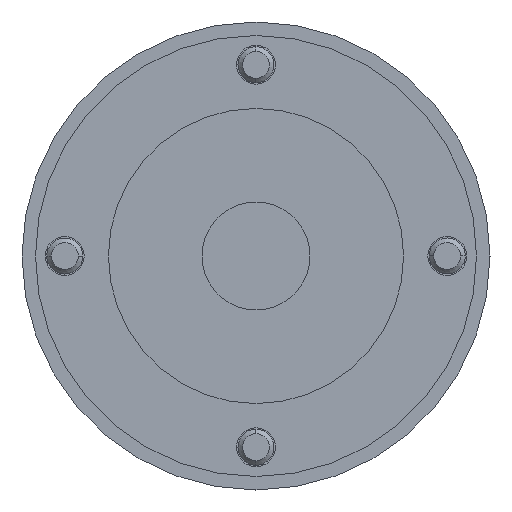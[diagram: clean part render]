
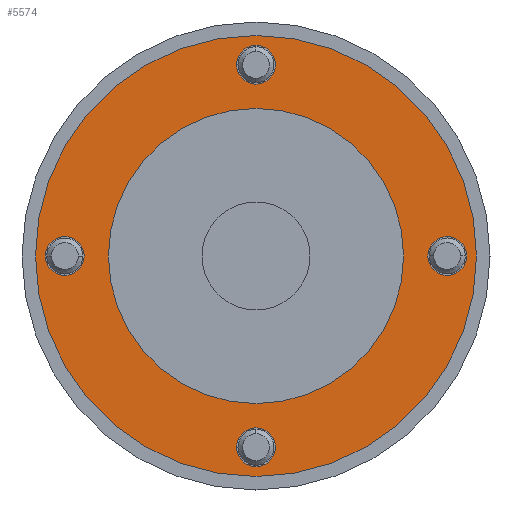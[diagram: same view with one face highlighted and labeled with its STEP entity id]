
A CAD part, left-side view. The second image highlights one B-rep face of the part: STEP entity #5574.
In plain terms, the highlighted planar face has unit normal (-1, 0, 0).
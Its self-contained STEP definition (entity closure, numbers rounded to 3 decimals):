
#1004 = CIRCLE ( 'NONE', #1089, 2.15 ) ;
#1079 = DIRECTION ( 'NONE',  ( 0., 0., -1. ) ) ;
#1080 = DIRECTION ( 'NONE',  ( 1., 0., 0. ) ) ;
#1081 = CARTESIAN_POINT ( 'NONE',  ( 2., 21.25, 0. ) ) ;
#1089 = AXIS2_PLACEMENT_3D ( 'NONE', #1081, #1080, #1079 ) ;
#1363 = CARTESIAN_POINT ( 'NONE',  ( 2., 0., -23.4 ) ) ;
#2031 = CARTESIAN_POINT ( 'NONE',  ( 2., 0., -16.4 ) ) ;
#2098 = DIRECTION ( 'NONE',  ( 0., 0., 1. ) ) ;
#2099 = DIRECTION ( 'NONE',  ( -1., 0., 0. ) ) ;
#2100 = CARTESIAN_POINT ( 'NONE',  ( 2., 0., 0. ) ) ;
#2101 = AXIS2_PLACEMENT_3D ( 'NONE', #2100, #2099, #2098 ) ;
#2115 = CIRCLE ( 'NONE', #2101, 16.4 ) ;
#2145 = CARTESIAN_POINT ( 'NONE',  ( 2., 0., 16.4 ) ) ;
#2383 = DIRECTION ( 'NONE',  ( 0., 0., -1. ) ) ;
#2384 = DIRECTION ( 'NONE',  ( 1., 0., 0. ) ) ;
#2385 = CARTESIAN_POINT ( 'NONE',  ( 2., -21.25, 0. ) ) ;
#2386 = AXIS2_PLACEMENT_3D ( 'NONE', #2385, #2384, #2383 ) ;
#2387 = CIRCLE ( 'NONE', #2386, 2.15 ) ;
#2389 = CARTESIAN_POINT ( 'NONE',  ( 2., -21.25, 2.15 ) ) ;
#2405 = CARTESIAN_POINT ( 'NONE',  ( 2., 0., 19.1 ) ) ;
#2444 = CARTESIAN_POINT ( 'NONE',  ( 2., 21.25, 2.15 ) ) ;
#2445 = CARTESIAN_POINT ( 'NONE',  ( 2., -21.25, -2.15 ) ) ;
#2463 = CARTESIAN_POINT ( 'NONE',  ( 2., 0., -19.1 ) ) ;
#2556 = DIRECTION ( 'NONE',  ( 0., 0., -1. ) ) ;
#2557 = DIRECTION ( 'NONE',  ( 1., 0., 0. ) ) ;
#2558 = CARTESIAN_POINT ( 'NONE',  ( 2., 0., -21.25 ) ) ;
#2587 = CIRCLE ( 'NONE', #2608, 2.15 ) ;
#2608 = AXIS2_PLACEMENT_3D ( 'NONE', #2558, #2557, #2556 ) ;
#2683 = DIRECTION ( 'NONE',  ( 0., 0., -1. ) ) ;
#2684 = DIRECTION ( 'NONE',  ( 1., 0., 0. ) ) ;
#2685 = AXIS2_PLACEMENT_3D ( 'NONE', #2694, #2684, #2683 ) ;
#2693 = CIRCLE ( 'NONE', #2685, 2.15 ) ;
#2694 = CARTESIAN_POINT ( 'NONE',  ( 2., 0., 21.25 ) ) ;
#2700 = CARTESIAN_POINT ( 'NONE',  ( 2., 0., 23.4 ) ) ;
#2701 = CARTESIAN_POINT ( 'NONE',  ( 2., 21.25, -2.15 ) ) ;
#2975 = AXIS2_PLACEMENT_3D ( 'NONE', #2977, #2976, #3109 ) ;
#2976 = DIRECTION ( 'NONE',  ( -1., 0., 0. ) ) ;
#2977 = CARTESIAN_POINT ( 'NONE',  ( 2., 0., 0. ) ) ;
#2987 = CIRCLE ( 'NONE', #2975, 24.5 ) ;
#3109 = DIRECTION ( 'NONE',  ( 0., 0., 1. ) ) ;
#3379 = CARTESIAN_POINT ( 'NONE',  ( 2., 0., 0. ) ) ;
#3380 = AXIS2_PLACEMENT_3D ( 'NONE', #3379, #3436, #3435 ) ;
#3381 = CIRCLE ( 'NONE', #3380, 24.5 ) ;
#3435 = DIRECTION ( 'NONE',  ( 0., 0., 1. ) ) ;
#3436 = DIRECTION ( 'NONE',  ( -1., 0., 0. ) ) ;
#3502 = CARTESIAN_POINT ( 'NONE',  ( 2., 0., -24.5 ) ) ;
#3534 = CARTESIAN_POINT ( 'NONE',  ( 2., 0., 24.5 ) ) ;
#3584 = DIRECTION ( 'NONE',  ( 0., 0., -1. ) ) ;
#3585 = DIRECTION ( 'NONE',  ( 1., 0., 0. ) ) ;
#3586 = CARTESIAN_POINT ( 'NONE',  ( 2., 0., -21.25 ) ) ;
#3589 = CARTESIAN_POINT ( 'NONE',  ( 2., 21.25, 0. ) ) ;
#3590 = AXIS2_PLACEMENT_3D ( 'NONE', #3586, #3585, #3584 ) ;
#3591 = CIRCLE ( 'NONE', #3590, 2.15 ) ;
#3596 = AXIS2_PLACEMENT_3D ( 'NONE', #3589, #3632, #3631 ) ;
#3606 = CIRCLE ( 'NONE', #3596, 2.15 ) ;
#3627 = DIRECTION ( 'NONE',  ( 1., 0., 0. ) ) ;
#3628 = CARTESIAN_POINT ( 'NONE',  ( 2., 24.5, 0. ) ) ;
#3631 = DIRECTION ( 'NONE',  ( 0., 0., -1. ) ) ;
#3632 = DIRECTION ( 'NONE',  ( 1., 0., 0. ) ) ;
#3633 = DIRECTION ( 'NONE',  ( 0., 0., -1. ) ) ;
#3651 = FACE_OUTER_BOUND ( 'NONE', #5751, .T. ) ;
#3652 = FACE_BOUND ( 'NONE', #5745, .T. ) ;
#3653 = FACE_BOUND ( 'NONE', #5721, .T. ) ;
#3654 = FACE_BOUND ( 'NONE', #5575, .T. ) ;
#3655 = FACE_BOUND ( 'NONE', #5565, .T. ) ;
#3657 = PLANE ( 'NONE',  #3659 ) ;
#3658 = FACE_BOUND ( 'NONE', #5785, .T. ) ;
#3659 = AXIS2_PLACEMENT_3D ( 'NONE', #3628, #3627, #3633 ) ;
#3737 = DIRECTION ( 'NONE',  ( 0., 0., -1. ) ) ;
#3738 = DIRECTION ( 'NONE',  ( 1., 0., 0. ) ) ;
#3743 = CARTESIAN_POINT ( 'NONE',  ( 2., 0., 21.25 ) ) ;
#3744 = AXIS2_PLACEMENT_3D ( 'NONE', #3743, #3738, #3737 ) ;
#3757 = CIRCLE ( 'NONE', #3744, 2.15 ) ;
#3798 = DIRECTION ( 'NONE',  ( 0., 0., -1. ) ) ;
#3799 = DIRECTION ( 'NONE',  ( 1., 0., 0. ) ) ;
#3800 = AXIS2_PLACEMENT_3D ( 'NONE', #3816, #3799, #3798 ) ;
#3805 = CIRCLE ( 'NONE', #3800, 2.15 ) ;
#3816 = CARTESIAN_POINT ( 'NONE',  ( 2., -21.25, 0. ) ) ;
#3932 = DIRECTION ( 'NONE',  ( 0., 0., 1. ) ) ;
#3933 = DIRECTION ( 'NONE',  ( -1., 0., 0. ) ) ;
#3934 = CARTESIAN_POINT ( 'NONE',  ( 2., 0., 0. ) ) ;
#3935 = AXIS2_PLACEMENT_3D ( 'NONE', #3934, #3933, #3932 ) ;
#4113 = CIRCLE ( 'NONE', #3935, 16.4 ) ;
#4627 = EDGE_CURVE ( 'NONE', #5067, #5152, #1004, .T. ) ;
#4652 = VERTEX_POINT ( 'NONE', #1363 ) ;
#4907 = VERTEX_POINT ( 'NONE', #2145 ) ;
#4908 = VERTEX_POINT ( 'NONE', #2031 ) ;
#4935 = EDGE_CURVE ( 'NONE', #4908, #4907, #2115, .T. ) ;
#5062 = VERTEX_POINT ( 'NONE', #2463 ) ;
#5067 = VERTEX_POINT ( 'NONE', #2444 ) ;
#5070 = VERTEX_POINT ( 'NONE', #2405 ) ;
#5074 = VERTEX_POINT ( 'NONE', #2445 ) ;
#5076 = EDGE_CURVE ( 'NONE', #5080, #5074, #2387, .T. ) ;
#5080 = VERTEX_POINT ( 'NONE', #2389 ) ;
#5143 = VERTEX_POINT ( 'NONE', #2700 ) ;
#5151 = EDGE_CURVE ( 'NONE', #5143, #5070, #2693, .T. ) ;
#5152 = VERTEX_POINT ( 'NONE', #2701 ) ;
#5185 = EDGE_CURVE ( 'NONE', #5062, #4652, #2587, .T. ) ;
#5447 = EDGE_CURVE ( 'NONE', #5521, #5520, #3381, .T. ) ;
#5488 = EDGE_CURVE ( 'NONE', #5520, #5521, #2987, .T. ) ;
#5520 = VERTEX_POINT ( 'NONE', #3502 ) ;
#5521 = VERTEX_POINT ( 'NONE', #3534 ) ;
#5563 = EDGE_CURVE ( 'NONE', #4652, #5062, #3591, .T. ) ;
#5564 = EDGE_CURVE ( 'NONE', #5152, #5067, #3606, .T. ) ;
#5565 = EDGE_LOOP ( 'NONE', ( #5712, #5715 ) ) ;
#5574 = ADVANCED_FACE ( 'NONE', ( #3658, #3655, #3654, #3653, #3652, #3651 ), #3657, .F. ) ;
#5575 = EDGE_LOOP ( 'NONE', ( #5577, #5718 ) ) ;
#5577 = ORIENTED_EDGE ( 'NONE', *, *, #5717, .T. ) ;
#5672 = EDGE_CURVE ( 'NONE', #4907, #4908, #4113, .T. ) ;
#5712 = ORIENTED_EDGE ( 'NONE', *, *, #5563, .T. ) ;
#5714 = ORIENTED_EDGE ( 'NONE', *, *, #5748, .T. ) ;
#5715 = ORIENTED_EDGE ( 'NONE', *, *, #5185, .T. ) ;
#5717 = EDGE_CURVE ( 'NONE', #5074, #5080, #3805, .T. ) ;
#5718 = ORIENTED_EDGE ( 'NONE', *, *, #5076, .T. ) ;
#5721 = EDGE_LOOP ( 'NONE', ( #5714, #5752 ) ) ;
#5724 = ORIENTED_EDGE ( 'NONE', *, *, #5564, .T. ) ;
#5726 = ORIENTED_EDGE ( 'NONE', *, *, #4627, .T. ) ;
#5730 = ORIENTED_EDGE ( 'NONE', *, *, #5672, .F. ) ;
#5745 = EDGE_LOOP ( 'NONE', ( #5730, #5750 ) ) ;
#5748 = EDGE_CURVE ( 'NONE', #5070, #5143, #3757, .T. ) ;
#5749 = ORIENTED_EDGE ( 'NONE', *, *, #5447, .T. ) ;
#5750 = ORIENTED_EDGE ( 'NONE', *, *, #4935, .F. ) ;
#5751 = EDGE_LOOP ( 'NONE', ( #5749, #5754 ) ) ;
#5752 = ORIENTED_EDGE ( 'NONE', *, *, #5151, .T. ) ;
#5754 = ORIENTED_EDGE ( 'NONE', *, *, #5488, .T. ) ;
#5785 = EDGE_LOOP ( 'NONE', ( #5724, #5726 ) ) ;
